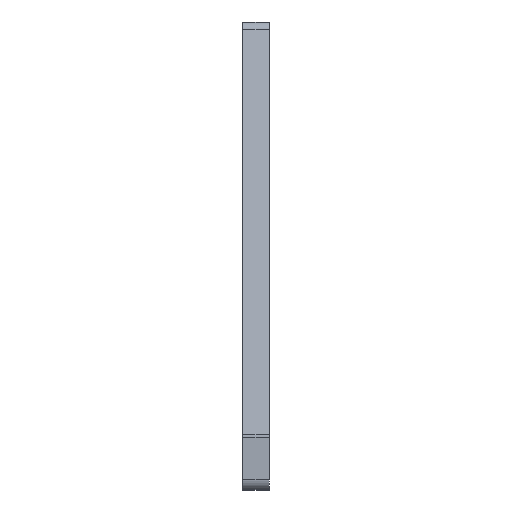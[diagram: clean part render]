
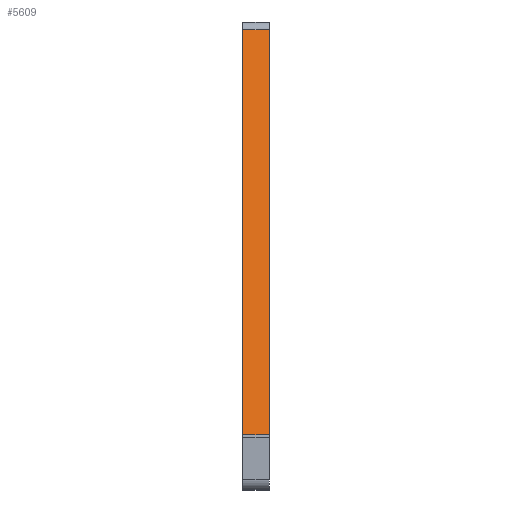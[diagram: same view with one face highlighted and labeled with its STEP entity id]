
A CAD part, left-side view. The second image highlights one B-rep face of the part: STEP entity #5609.
In plain terms, the highlighted planar face has unit normal (-0.97, 0, 0.242).
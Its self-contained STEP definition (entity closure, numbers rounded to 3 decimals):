
#562=FACE_OUTER_BOUND('',#858,.T.);
#858=EDGE_LOOP('',(#3771,#3772,#3773,#3774));
#1247=LINE('',#8305,#1796);
#1248=LINE('',#8307,#1797);
#1249=LINE('',#8309,#1798);
#1250=LINE('',#8310,#1799);
#1796=VECTOR('',#6545,10.);
#1797=VECTOR('',#6546,10.);
#1798=VECTOR('',#6547,10.);
#1799=VECTOR('',#6548,10.);
#2340=VERTEX_POINT('',#8303);
#2341=VERTEX_POINT('',#8304);
#2342=VERTEX_POINT('',#8306);
#2343=VERTEX_POINT('',#8308);
#2911=EDGE_CURVE('',#2340,#2341,#1247,.T.);
#2912=EDGE_CURVE('',#2340,#2342,#1248,.T.);
#2913=EDGE_CURVE('',#2343,#2342,#1249,.T.);
#2914=EDGE_CURVE('',#2341,#2343,#1250,.T.);
#3771=ORIENTED_EDGE('',*,*,#2911,.F.);
#3772=ORIENTED_EDGE('',*,*,#2912,.T.);
#3773=ORIENTED_EDGE('',*,*,#2913,.F.);
#3774=ORIENTED_EDGE('',*,*,#2914,.F.);
#5466=PLANE('',#5919);
#5609=ADVANCED_FACE('',(#562),#5466,.T.);
#5919=AXIS2_PLACEMENT_3D('',#8302,#6543,#6544);
#6543=DIRECTION('center_axis',(-0.97,0.,0.243));
#6544=DIRECTION('ref_axis',(-0.243,0.,-0.97));
#6545=DIRECTION('',(0.243,0.,0.97));
#6546=DIRECTION('',(0.,-1.,0.));
#6547=DIRECTION('',(-0.243,0.,-0.97));
#6548=DIRECTION('',(0.,-1.,0.));
#8302=CARTESIAN_POINT('Origin',(-1.94,0.,0.485));
#8303=CARTESIAN_POINT('',(-21.19,0.,-76.515));
#8304=CARTESIAN_POINT('',(-1.94,0.,0.485));
#8305=CARTESIAN_POINT('',(-21.19,0.,-76.515));
#8306=CARTESIAN_POINT('',(-21.19,-5.,-76.515));
#8307=CARTESIAN_POINT('',(-21.19,0.,-76.515));
#8308=CARTESIAN_POINT('',(-1.94,-5.,0.485));
#8309=CARTESIAN_POINT('',(-21.19,-5.,-76.515));
#8310=CARTESIAN_POINT('',(-1.94,0.,0.485));
